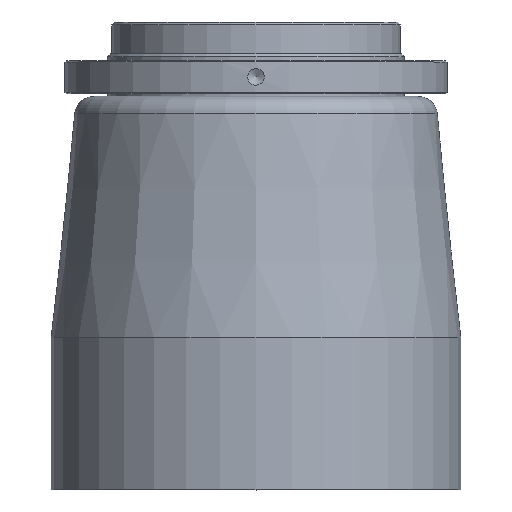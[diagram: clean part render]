
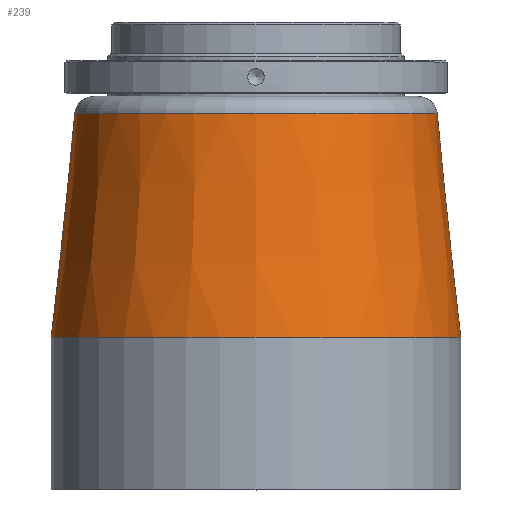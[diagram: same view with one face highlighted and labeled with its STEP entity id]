
A CAD part, top view. The second image highlights one B-rep face of the part: STEP entity #239.
In plain terms, the highlighted conical face has half-angle 6 degrees and reference radius 65.937 mm.
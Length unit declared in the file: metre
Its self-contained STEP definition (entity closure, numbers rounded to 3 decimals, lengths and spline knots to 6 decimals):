
#239=ADVANCED_FACE('',(#505,#506),#507,.T.);
#505=FACE_OUTER_BOUND('',#780,.T.);
#506=FACE_BOUND('',#781,.T.);
#507=CONICAL_SURFACE('',#782,0.065937,0.105);
#780=EDGE_LOOP('',(#1236));
#781=EDGE_LOOP('',(#1237));
#782=AXIS2_PLACEMENT_3D('',#1238,#1239,#1240);
#1236=ORIENTED_EDGE('',*,*,#1365,.T.);
#1237=ORIENTED_EDGE('',*,*,#1452,.F.);
#1238=CARTESIAN_POINT('',(-0.028099,0.094208,0.0));
#1239=DIRECTION('',(0.0,-1.0,-0.0));
#1240=DIRECTION('',(0.0,0.0,-1.0));
#1365=EDGE_CURVE('',#1592,#1592,#1593,.T.);
#1452=EDGE_CURVE('',#1701,#1701,#1702,.T.);
#1592=VERTEX_POINT('',#1917);
#1593=CIRCLE('',#1918,0.0745);
#1701=VERTEX_POINT('',#2177);
#1702=CIRCLE('',#2178,0.065937);
#1917=CARTESIAN_POINT('',(-0.028099,0.012738,0.0745));
#1918=AXIS2_PLACEMENT_3D('',#2323,#2324,#2325);
#2177=CARTESIAN_POINT('',(-0.028099,0.094208,0.065937));
#2178=AXIS2_PLACEMENT_3D('',#2405,#2406,#2407);
#2323=CARTESIAN_POINT('',(-0.028099,0.012738,0.0));
#2324=DIRECTION('',(0.0,1.0,0.0));
#2325=DIRECTION('',(0.0,0.0,1.0));
#2405=CARTESIAN_POINT('',(-0.028099,0.094208,0.0));
#2406=DIRECTION('',(0.0,1.0,0.0));
#2407=DIRECTION('',(0.0,0.0,1.0));
